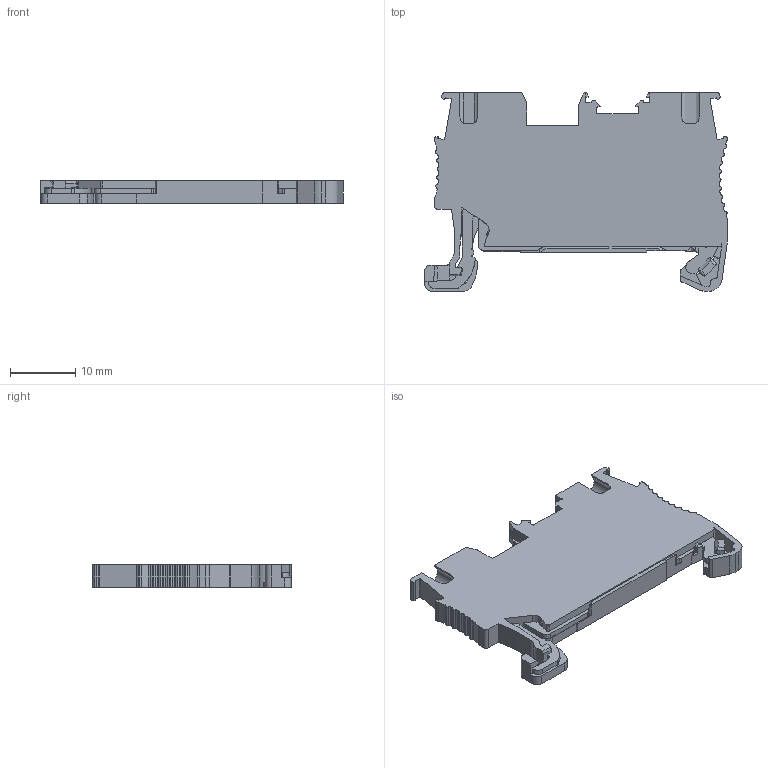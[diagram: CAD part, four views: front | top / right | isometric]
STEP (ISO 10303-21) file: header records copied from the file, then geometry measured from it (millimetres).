
FILE_DESCRIPTION((''),'2;1');
FILE_NAME('UPT-1_5PE_ASSY','2024-03-29T16:18:49',('Administrator'),(''),'CREO PARAMETRIC BY PTC INC, 2018050','CREO PARAMETRIC BY PTC INC, 2018050','');
FILE_SCHEMA(('CONFIG_CONTROL_DESIGN'));
Length unit declared in the file: millimetre
Products named in the file (1): UPT-1_5PE_ASSY
Bounding box: 46.5 x 30.5 x 3.5 mm (x, y, z)
Volume: 3278.6 mm3; surface area: 3332.7 mm2
Topology: 1 solids, 1 shells, 884 faces, 2486 edges, 1579 vertices
Faces by surface type: cylinder 395, plane 372, sphere 32, cone 31, torus 28, bspline 18, extrusion 8
Entity records: 30656 total; most frequent: CARTESIAN_POINT 7682, ORIENTED_EDGE 4914, DIRECTION 4831, EDGE_CURVE 2457, AXIS2_PLACEMENT_3D 1701, VERTEX_POINT 1579, VECTOR 1429, LINE 1421
